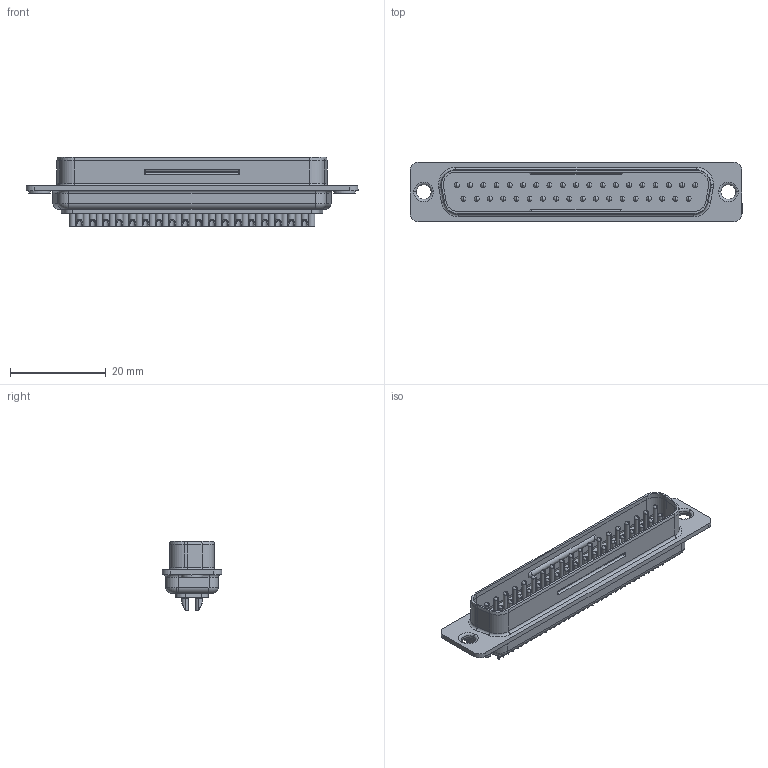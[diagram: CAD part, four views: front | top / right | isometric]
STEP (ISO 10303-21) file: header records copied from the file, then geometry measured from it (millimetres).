
FILE_DESCRIPTION (( 'STEP AP203' ), '1' );
FILE_NAME ('17JE-23370-02(D1).STEP', '2021-07-29T07:32:56', ( '' ), ( '' ), 'SwSTEP 2.0', 'SolidWorks 2018', '' );
FILE_SCHEMA (( 'CONFIG_CONTROL_DESIGN' ));
Length unit declared in the file: millimetre
Products named in the file (1): 17JE-23370-02(D1)
Bounding box: 69.2 x 12.4 x 14.43 mm (x, y, z)
Volume: 3807.1 mm3; surface area: 6783.5 mm2
Topology: 1 solids, 1 shells, 701 faces, 1732 edges, 1030 vertices
Faces by surface type: cylinder 354, torus 142, plane 123, cone 74, bspline 4, sphere 4
Entity records: 22310 total; most frequent: CARTESIAN_POINT 5446, DIRECTION 3925, ORIENTED_EDGE 3300, AXIS2_PLACEMENT_3D 1671, EDGE_CURVE 1650, VERTEX_POINT 1026, CIRCLE 973, EDGE_LOOP 792
